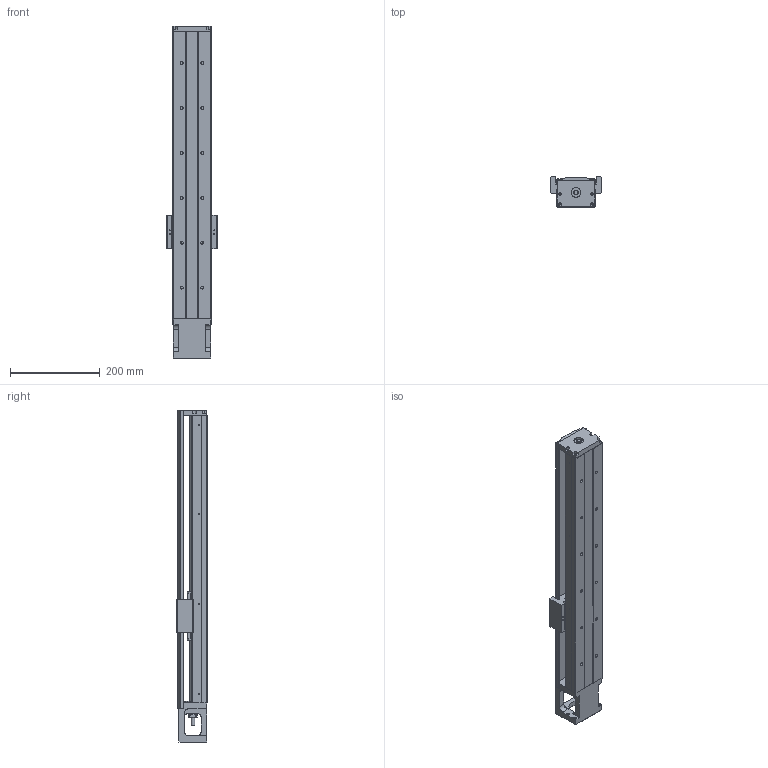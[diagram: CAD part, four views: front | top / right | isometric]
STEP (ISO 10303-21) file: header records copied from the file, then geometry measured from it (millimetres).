
FILE_DESCRIPTION(/* description */ (''),/* implementation_level */ '2;1');
FILE_NAME(/* name */ '46L-640C.stp',/* time_stamp */ '2019-09-05T13:23:49+08:00',/* author */ (''),/* organization */ (''),/* preprocessor_version */ 'ST-DEVELOPER v16',/* originating_system */ 'SIEMENS PLM Software NX 10.0',/* authorisation */ '');
FILE_SCHEMA (('AP203_CONFIGURATION_CONTROLLED_3D_DESIGN_OF_MECHANICAL_PARTS_AND_ASSEMBLIES_MIM_LF { 1 0 10303 403 2 1 2}'));
Length unit declared in the file: millimetre
Products named in the file (1): 0154B620C536ce6u
Bounding box: 112 x 68 x 740 mm (x, y, z)
Volume: 1967902.9 mm3; surface area: 500168.4 mm2
Topology: 7 solids, 15 shells, 729 faces, 1905 edges, 1250 vertices
Faces by surface type: plane 344, cylinder 263, cone 61, bspline 53, torus 8
Full cylindrical faces by diameter (mm): 2.11 x4, 2.15 x8, 2.42 x8, 2.5 x4, 3 x6, 3.2 x4, 3.3 x12, 3.4 x8, 4 x4, 4.2 x4, 4.5 x8, 5 x14, 6 x8, 6.35 x2, 6.6 x12, 8 x1, 9.6 x1, 10 x3, 11 x12, 12 x1, 14.95 x2, 15 x1, 16 x2, 22 x3, 27.5 x1, 44 x1, 50 x1
Entity records: 30029 total; most frequent: CARTESIAN_POINT 13449, ORIENTED_EDGE 3280, DIRECTION 3205, EDGE_CURVE 1640, AXIS2_PLACEMENT_3D 1179, VERTEX_POINT 1173, EDGE_LOOP 1029, LINE 847
